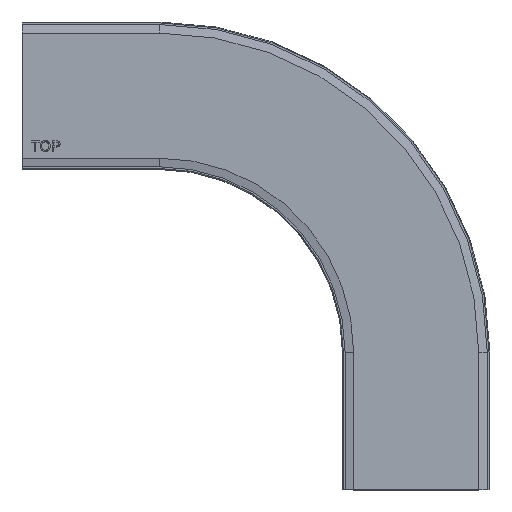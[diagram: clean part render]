
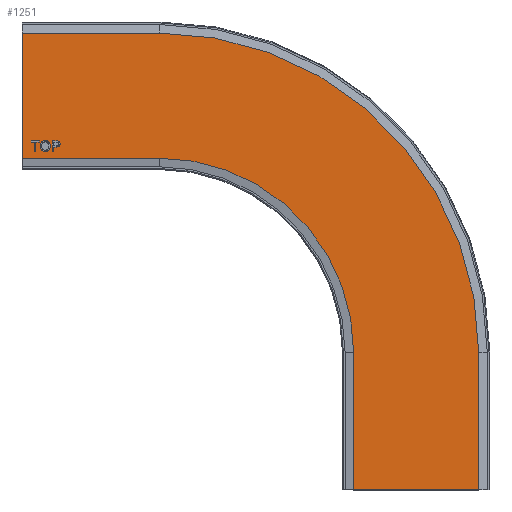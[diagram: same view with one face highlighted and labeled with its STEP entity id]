
A CAD part, top view. The second image highlights one B-rep face of the part: STEP entity #1251.
In plain terms, the highlighted planar face has unit normal (0, 0, 1).
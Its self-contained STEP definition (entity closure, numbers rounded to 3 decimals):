
#243=CARTESIAN_POINT('',(10.621,-29.49,0.0));
#244=VERTEX_POINT('',#243);
#251=CARTESIAN_POINT('',(13.541,-32.563,0.0));
#252=VERTEX_POINT('',#251);
#253=CARTESIAN_POINT('',(13.541,-32.563,0.0));
#254=CARTESIAN_POINT('',(12.676,-32.563,0.0));
#255=CARTESIAN_POINT('',(11.319,-31.731,0.0));
#256=CARTESIAN_POINT('',(10.621,-30.294,0.0));
#257=CARTESIAN_POINT('',(10.621,-29.49,0.0));
#258=QUASI_UNIFORM_CURVE('',2,(#253,#254,#255,#256,#257),.UNSPECIFIED.,.F.,.U.);
#259=EDGE_CURVE('',#252,#244,#258,.T.);
#292=CARTESIAN_POINT('',(16.456,-29.42,0.0));
#293=VERTEX_POINT('',#292);
#294=CARTESIAN_POINT('',(16.456,-29.42,0.0));
#295=CARTESIAN_POINT('',(16.456,-30.346,0.0));
#296=CARTESIAN_POINT('',(15.708,-31.81,0.0));
#297=CARTESIAN_POINT('',(14.331,-32.563,0.0));
#298=CARTESIAN_POINT('',(13.541,-32.563,0.0));
#299=QUASI_UNIFORM_CURVE('',2,(#294,#295,#296,#297,#298),.UNSPECIFIED.,.F.,.U.);
#300=EDGE_CURVE('',#293,#252,#299,.T.);
#333=CARTESIAN_POINT('',(13.541,-26.254,0.0));
#334=VERTEX_POINT('',#333);
#335=CARTESIAN_POINT('',(13.541,-26.254,0.0));
#336=CARTESIAN_POINT('',(14.387,-26.254,0.0));
#337=CARTESIAN_POINT('',(15.745,-27.063,0.0));
#338=CARTESIAN_POINT('',(16.456,-28.504,0.0));
#339=CARTESIAN_POINT('',(16.456,-29.42,0.0));
#340=QUASI_UNIFORM_CURVE('',2,(#335,#336,#337,#338,#339),.UNSPECIFIED.,.F.,.U.);
#341=EDGE_CURVE('',#334,#293,#340,.T.);
#369=CARTESIAN_POINT('',(10.621,-29.49,0.0));
#370=CARTESIAN_POINT('',(10.621,-27.97,0.0));
#371=CARTESIAN_POINT('',(12.253,-26.254,0.0));
#372=CARTESIAN_POINT('',(13.541,-26.254,0.0));
#373=QUASI_UNIFORM_CURVE('',2,(#369,#370,#371,#372),.UNSPECIFIED.,.F.,.U.);
#374=EDGE_CURVE('',#244,#334,#373,.T.);
#413=CARTESIAN_POINT('',(7.208,-32.461,0.0));
#414=VERTEX_POINT('',#413);
#421=CARTESIAN_POINT('',(8.017,-32.461,0.0));
#422=VERTEX_POINT('',#421);
#423=CARTESIAN_POINT('',(8.017,-32.461,0.0));
#424=DIRECTION('',(-1.0,0.0,0.0));
#425=VECTOR('',#424,0.809);
#426=LINE('',#423,#425);
#427=EDGE_CURVE('',#422,#414,#426,.T.);
#452=CARTESIAN_POINT('',(8.017,-27.082,0.0));
#453=VERTEX_POINT('',#452);
#454=CARTESIAN_POINT('',(8.017,-27.082,0.0));
#455=DIRECTION('',(0.0,-1.0,0.0));
#456=VECTOR('',#455,5.379);
#457=LINE('',#454,#456);
#458=EDGE_CURVE('',#453,#422,#457,.T.);
#483=CARTESIAN_POINT('',(10.035,-27.082,0.0));
#484=VERTEX_POINT('',#483);
#485=CARTESIAN_POINT('',(10.035,-27.082,0.0));
#486=DIRECTION('',(-1.0,0.0,0.0));
#487=VECTOR('',#486,2.018);
#488=LINE('',#485,#487);
#489=EDGE_CURVE('',#484,#453,#488,.T.);
#514=CARTESIAN_POINT('',(10.035,-26.361,0.0));
#515=VERTEX_POINT('',#514);
#516=CARTESIAN_POINT('',(10.035,-26.361,0.0));
#517=DIRECTION('',(0.0,-1.0,0.0));
#518=VECTOR('',#517,0.721);
#519=LINE('',#516,#518);
#520=EDGE_CURVE('',#515,#484,#519,.T.);
#545=CARTESIAN_POINT('',(5.2,-26.361,0.0));
#546=VERTEX_POINT('',#545);
#547=CARTESIAN_POINT('',(5.2,-26.361,0.0));
#548=DIRECTION('',(1.0,0.0,0.0));
#549=VECTOR('',#548,4.835);
#550=LINE('',#547,#549);
#551=EDGE_CURVE('',#546,#515,#550,.T.);
#576=CARTESIAN_POINT('',(5.2,-27.082,0.0));
#577=VERTEX_POINT('',#576);
#578=CARTESIAN_POINT('',(5.2,-27.082,0.0));
#579=DIRECTION('',(0.0,1.0,0.0));
#580=VECTOR('',#579,0.721);
#581=LINE('',#578,#580);
#582=EDGE_CURVE('',#577,#546,#581,.T.);
#607=CARTESIAN_POINT('',(7.208,-27.082,0.0));
#608=VERTEX_POINT('',#607);
#609=CARTESIAN_POINT('',(7.208,-27.082,0.0));
#610=DIRECTION('',(-1.0,0.0,0.0));
#611=VECTOR('',#610,2.009);
#612=LINE('',#609,#611);
#613=EDGE_CURVE('',#608,#577,#612,.T.);
#636=CARTESIAN_POINT('',(7.208,-32.461,0.0));
#637=DIRECTION('',(0.0,1.0,0.0));
#638=VECTOR('',#637,5.379);
#639=LINE('',#636,#638);
#640=EDGE_CURVE('',#414,#608,#639,.T.);
#877=CARTESIAN_POINT('',(17.493,-32.461,0.0));
#878=VERTEX_POINT('',#877);
#885=CARTESIAN_POINT('',(18.302,-32.461,0.0));
#886=VERTEX_POINT('',#885);
#887=CARTESIAN_POINT('',(18.302,-32.461,0.0));
#888=DIRECTION('',(-1.0,0.0,0.0));
#889=VECTOR('',#888,0.809);
#890=LINE('',#887,#889);
#891=EDGE_CURVE('',#886,#878,#890,.T.);
#916=CARTESIAN_POINT('',(18.302,-29.983,0.0));
#917=VERTEX_POINT('',#916);
#918=CARTESIAN_POINT('',(18.302,-29.983,0.0));
#919=DIRECTION('',(0.0,-1.0,0.0));
#920=VECTOR('',#919,2.478);
#921=LINE('',#918,#920);
#922=EDGE_CURVE('',#917,#886,#921,.T.);
#947=CARTESIAN_POINT('',(19.869,-29.983,0.0));
#948=VERTEX_POINT('',#947);
#949=CARTESIAN_POINT('',(19.869,-29.983,0.0));
#950=DIRECTION('',(-1.0,0.0,0.0));
#951=VECTOR('',#950,1.567);
#952=LINE('',#949,#951);
#953=EDGE_CURVE('',#948,#917,#952,.T.);
#983=CARTESIAN_POINT('',(22.152,-28.128,0.0));
#984=VERTEX_POINT('',#983);
#985=CARTESIAN_POINT('',(22.152,-28.128,0.0));
#986=CARTESIAN_POINT('',(22.152,-28.904,0.0));
#987=CARTESIAN_POINT('',(21.161,-29.983,0.0));
#988=CARTESIAN_POINT('',(19.869,-29.983,0.0));
#989=QUASI_UNIFORM_CURVE('',2,(#985,#986,#987,#988),.UNSPECIFIED.,.F.,.U.);
#990=EDGE_CURVE('',#984,#948,#989,.T.);
#1023=CARTESIAN_POINT('',(20.724,-26.422,0.0));
#1024=VERTEX_POINT('',#1023);
#1025=CARTESIAN_POINT('',(20.724,-26.422,0.0));
#1026=CARTESIAN_POINT('',(21.175,-26.496,0.0));
#1027=CARTESIAN_POINT('',(21.78,-26.914,0.0));
#1028=CARTESIAN_POINT('',(22.152,-27.672,0.0));
#1029=CARTESIAN_POINT('',(22.152,-28.128,0.0));
#1030=QUASI_UNIFORM_CURVE('',2,(#1025,#1026,#1027,#1028,#1029),.UNSPECIFIED.,.F.,.U.);
#1031=EDGE_CURVE('',#1024,#984,#1030,.T.);
#1058=CARTESIAN_POINT('',(19.794,-26.361,0.0));
#1059=VERTEX_POINT('',#1058);
#1060=CARTESIAN_POINT('',(19.794,-26.361,0.0));
#1061=CARTESIAN_POINT('',(20.403,-26.361,0.0));
#1062=CARTESIAN_POINT('',(20.724,-26.422,0.0));
#1063=QUASI_UNIFORM_CURVE('',2,(#1060,#1061,#1062),.UNSPECIFIED.,.F.,.U.);
#1064=EDGE_CURVE('',#1059,#1024,#1063,.T.);
#1089=CARTESIAN_POINT('',(17.493,-26.361,0.0));
#1090=VERTEX_POINT('',#1089);
#1091=CARTESIAN_POINT('',(17.493,-26.361,0.0));
#1092=DIRECTION('',(1.0,0.0,0.0));
#1093=VECTOR('',#1092,2.301);
#1094=LINE('',#1091,#1093);
#1095=EDGE_CURVE('',#1090,#1059,#1094,.T.);
#1118=CARTESIAN_POINT('',(17.493,-32.461,0.0));
#1119=DIRECTION('',(0.0,1.0,0.0));
#1120=VECTOR('',#1119,6.1);
#1121=LINE('',#1118,#1120);
#1122=EDGE_CURVE('',#878,#1090,#1121,.T.);
#1152=CARTESIAN_POINT('',(0.0,0.0,0.0));
#1153=DIRECTION('',(0.0,0.0,1.0));
#1154=DIRECTION('',(1.0,0.0,0.0));
#1155=AXIS2_PLACEMENT_3D('',#1152,#1153,#1154);
#1156=PLANE('',#1155);
#1157=CARTESIAN_POINT('',(0.0,36.5,0.0));
#1158=VERTEX_POINT('',#1157);
#1159=CARTESIAN_POINT('',(80.0,36.5,0.0));
#1160=VERTEX_POINT('',#1159);
#1161=CARTESIAN_POINT('',(0.0,36.5,0.0));
#1162=DIRECTION('',(1.0,0.0,0.0));
#1163=VECTOR('',#1162,80.0);
#1164=LINE('',#1161,#1163);
#1165=EDGE_CURVE('',#1158,#1160,#1164,.T.);
#1166=ORIENTED_EDGE('',*,*,#1165,.F.);
#1167=CARTESIAN_POINT('',(0.0,-36.5,0.0));
#1168=VERTEX_POINT('',#1167);
#1169=CARTESIAN_POINT('',(0.0,36.5,0.0));
#1170=DIRECTION('',(0.0,-1.0,0.0));
#1171=VECTOR('',#1170,73.0);
#1172=LINE('',#1169,#1171);
#1173=EDGE_CURVE('',#1158,#1168,#1172,.T.);
#1174=ORIENTED_EDGE('',*,*,#1173,.T.);
#1175=CARTESIAN_POINT('',(80.0,-36.5,0.0));
#1176=VERTEX_POINT('',#1175);
#1177=CARTESIAN_POINT('',(0.0,-36.5,0.0));
#1178=DIRECTION('',(1.0,0.0,0.0));
#1179=VECTOR('',#1178,80.0);
#1180=LINE('',#1177,#1179);
#1181=EDGE_CURVE('',#1168,#1176,#1180,.T.);
#1182=ORIENTED_EDGE('',*,*,#1181,.T.);
#1183=CARTESIAN_POINT('',(193.5,-150.0,0.0));
#1184=VERTEX_POINT('',#1183);
#1185=CARTESIAN_POINT('',(80.0,-150.0,0.0));
#1186=DIRECTION('',(0.0,0.0,-1.0));
#1187=DIRECTION('',(-1.0,0.0,0.0));
#1188=AXIS2_PLACEMENT_3D('',#1185,#1186,#1187);
#1189=CIRCLE('',#1188,113.5);
#1190=EDGE_CURVE('',#1176,#1184,#1189,.T.);
#1191=ORIENTED_EDGE('',*,*,#1190,.T.);
#1192=CARTESIAN_POINT('',(193.5,-230.,0.0));
#1193=VERTEX_POINT('',#1192);
#1194=CARTESIAN_POINT('',(193.5,-150.0,0.0));
#1195=DIRECTION('',(0.0,-1.0,0.0));
#1196=VECTOR('',#1195,80.);
#1197=LINE('',#1194,#1196);
#1198=EDGE_CURVE('',#1184,#1193,#1197,.T.);
#1199=ORIENTED_EDGE('',*,*,#1198,.T.);
#1200=CARTESIAN_POINT('',(266.5,-230.,0.0));
#1201=VERTEX_POINT('',#1200);
#1202=CARTESIAN_POINT('',(193.5,-230.,0.));
#1203=DIRECTION('',(1.0,0.0,0.0));
#1204=VECTOR('',#1203,73.);
#1205=LINE('',#1202,#1204);
#1206=EDGE_CURVE('',#1193,#1201,#1205,.T.);
#1207=ORIENTED_EDGE('',*,*,#1206,.T.);
#1208=CARTESIAN_POINT('',(266.5,-150.0,0.0));
#1209=VERTEX_POINT('',#1208);
#1210=CARTESIAN_POINT('',(266.5,-150.,0.0));
#1211=DIRECTION('',(0.0,-1.0,0.0));
#1212=VECTOR('',#1211,80.);
#1213=LINE('',#1210,#1212);
#1214=EDGE_CURVE('',#1209,#1201,#1213,.T.);
#1215=ORIENTED_EDGE('',*,*,#1214,.F.);
#1216=CARTESIAN_POINT('',(80.0,-150.0,0.0));
#1217=DIRECTION('',(0.0,0.0,-1.0));
#1218=DIRECTION('',(-1.0,0.0,0.0));
#1219=AXIS2_PLACEMENT_3D('',#1216,#1217,#1218);
#1220=CIRCLE('',#1219,186.5);
#1221=EDGE_CURVE('',#1160,#1209,#1220,.T.);
#1222=ORIENTED_EDGE('',*,*,#1221,.F.);
#1223=EDGE_LOOP('',(#1166,#1174,#1182,#1191,#1199,#1207,#1215,#1222));
#1224=FACE_OUTER_BOUND('',#1223,.T.);
#1225=ORIENTED_EDGE('',*,*,#259,.T.);
#1226=ORIENTED_EDGE('',*,*,#374,.T.);
#1227=ORIENTED_EDGE('',*,*,#341,.T.);
#1228=ORIENTED_EDGE('',*,*,#300,.T.);
#1229=EDGE_LOOP('',(#1225,#1226,#1227,#1228));
#1230=FACE_BOUND('',#1229,.T.);
#1231=ORIENTED_EDGE('',*,*,#427,.T.);
#1232=ORIENTED_EDGE('',*,*,#640,.T.);
#1233=ORIENTED_EDGE('',*,*,#613,.T.);
#1234=ORIENTED_EDGE('',*,*,#582,.T.);
#1235=ORIENTED_EDGE('',*,*,#551,.T.);
#1236=ORIENTED_EDGE('',*,*,#520,.T.);
#1237=ORIENTED_EDGE('',*,*,#489,.T.);
#1238=ORIENTED_EDGE('',*,*,#458,.T.);
#1239=EDGE_LOOP('',(#1231,#1232,#1233,#1234,#1235,#1236,#1237,#1238));
#1240=FACE_BOUND('',#1239,.T.);
#1241=ORIENTED_EDGE('',*,*,#891,.T.);
#1242=ORIENTED_EDGE('',*,*,#1122,.T.);
#1243=ORIENTED_EDGE('',*,*,#1095,.T.);
#1244=ORIENTED_EDGE('',*,*,#1064,.T.);
#1245=ORIENTED_EDGE('',*,*,#1031,.T.);
#1246=ORIENTED_EDGE('',*,*,#990,.T.);
#1247=ORIENTED_EDGE('',*,*,#953,.T.);
#1248=ORIENTED_EDGE('',*,*,#922,.T.);
#1249=EDGE_LOOP('',(#1241,#1242,#1243,#1244,#1245,#1246,#1247,#1248));
#1250=FACE_BOUND('',#1249,.T.);
#1251=ADVANCED_FACE('',(#1224,#1230,#1240,#1250),#1156,.T.);
